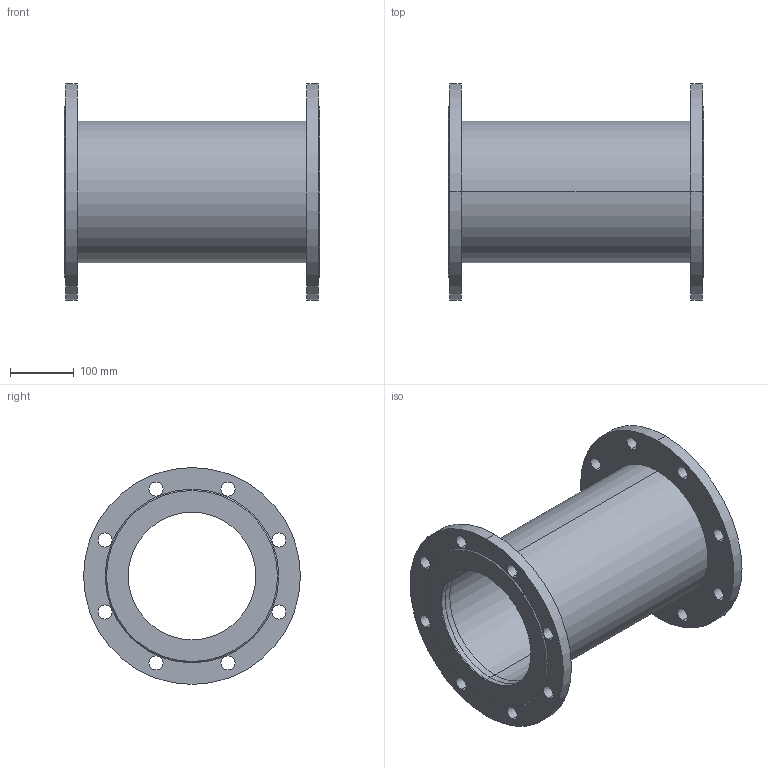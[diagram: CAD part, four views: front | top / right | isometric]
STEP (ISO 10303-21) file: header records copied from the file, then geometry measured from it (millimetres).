
FILE_DESCRIPTION(('STEP AP214'),'1');
FILE_NAME('U:/VDI-Daten/8500/8500_PN10_L400_DN200.STP','2012-06-12T13:31:04',(' '),(' '),'Spatial InterOp 3D',' ',' ');
FILE_SCHEMA(('automotive_design'));
Length unit declared in the file: millimetre
Products named in the file (5): 3D-Objekt
Bounding box: 400 x 340 x 340 mm (x, y, z)
Volume: 4902245.9 mm3; surface area: 935369.5 mm2
Topology: 5 solids, 5 shells, 62 faces, 156 edges, 104 vertices
Faces by surface type: cylinder 48, plane 10, cone 4
Entity records: 2621 total; most frequent: DIRECTION 394, CARTESIAN_POINT 327, ORIENTED_EDGE 312, AXIS2_PLACEMENT_3D 171, EDGE_CURVE 156, EDGE_LOOP 104, VERTEX_POINT 104, CIRCLE 104
